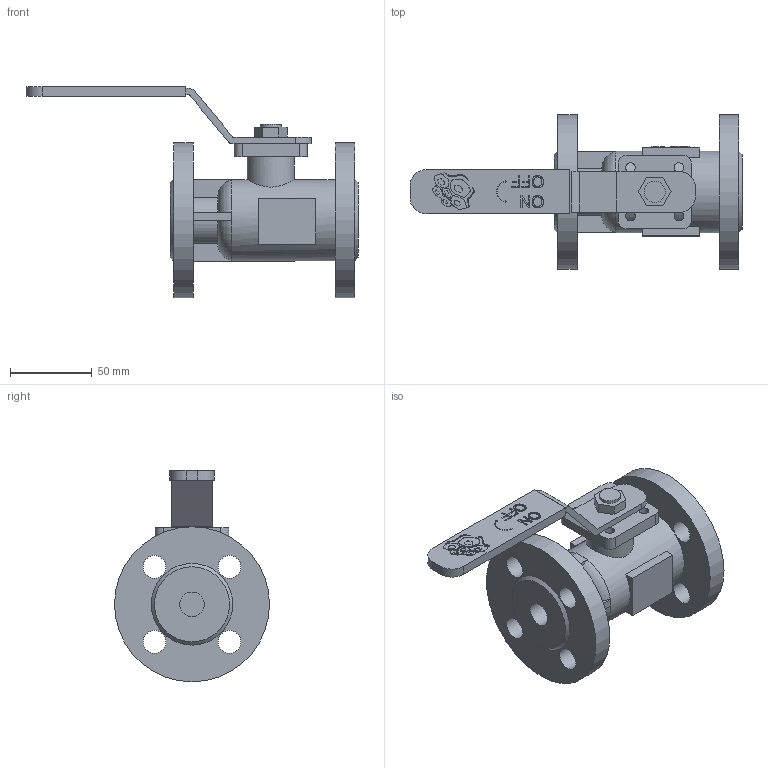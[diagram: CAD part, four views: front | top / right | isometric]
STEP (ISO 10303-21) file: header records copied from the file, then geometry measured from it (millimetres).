
FILE_DESCRIPTION(('STEP AP203'), '1');
FILE_NAME('3D_707-015-16', '', ('UNSPECIFIED'), ('UNSPECIFIED'), 'C3D Converter', 'C3D Toolkit', '');
FILE_SCHEMA(('CONFIG_CONTROL_DESIGN'));
Length unit declared in the file: millimetre
Bounding box: 203.5 x 95 x 129.7 mm (x, y, z)
Volume: 371019.9 mm3; surface area: 67760.1 mm2
Topology: 1 solids, 1 shells, 2965 faces, 8751 edges, 5830 vertices
Faces by surface type: plane 2923, cylinder 36, torus 4, cone 2
Full cylindrical faces by diameter (mm): 6 x4, 13 x1, 14 x8, 15 x2, 29 x1, 50 x1, 95 x2
Entity records: 121205 total; most frequent: CARTESIAN_POINT 18217, ORIENTED_EDGE 17460, DIRECTION 14757, EDGE_CURVE 8730, LINE 8619, VECTOR 8619, VERTEX_POINT 5830, AXIS2_PLACEMENT_3D 3069
